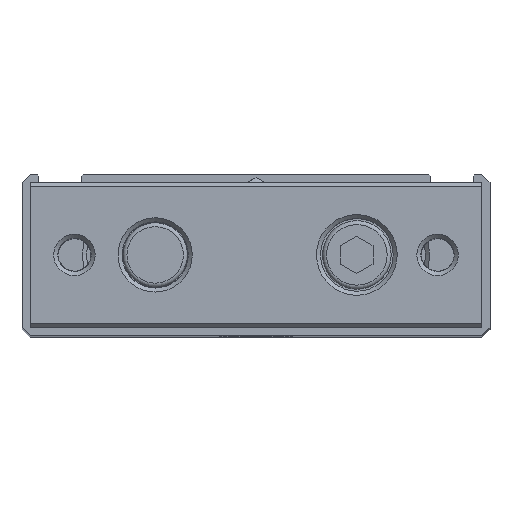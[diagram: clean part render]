
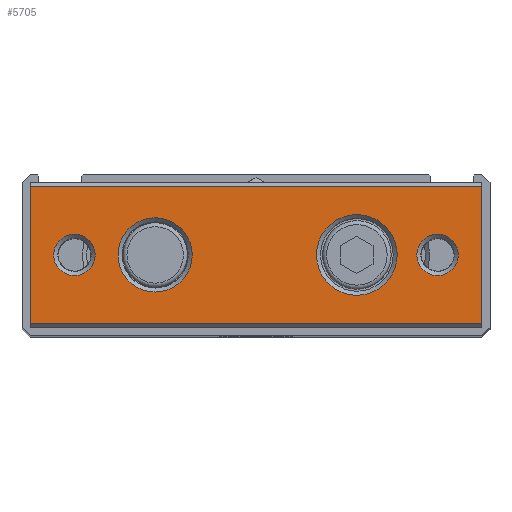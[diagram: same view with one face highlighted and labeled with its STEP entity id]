
A CAD part, top view. The second image highlights one B-rep face of the part: STEP entity #5705.
In plain terms, the highlighted planar face has unit normal (0, 0, 1).
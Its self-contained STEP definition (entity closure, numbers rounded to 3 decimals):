
#3656=CARTESIAN_POINT('',(-28.,-8.5,134.0));
#3657=VERTEX_POINT('',#3656);
#3664=CARTESIAN_POINT('',(-28.,8.5,134.0));
#3665=VERTEX_POINT('',#3664);
#3666=CARTESIAN_POINT('',(-28.,8.5,134.0));
#3667=DIRECTION('',(0.0,-1.0,0.0));
#3668=VECTOR('',#3667,17.0);
#3669=LINE('',#3666,#3668);
#3670=EDGE_CURVE('',#3665,#3657,#3669,.T.);
#3856=CARTESIAN_POINT('',(28.,-8.5,134.0));
#3857=VERTEX_POINT('',#3856);
#3864=CARTESIAN_POINT('',(28.,-8.5,134.0));
#3865=DIRECTION('',(-1.0,0.0,0.0));
#3866=VECTOR('',#3865,56.);
#3867=LINE('',#3864,#3866);
#3868=EDGE_CURVE('',#3857,#3657,#3867,.T.);
#3935=CARTESIAN_POINT('',(28.,8.5,134.0));
#3936=VERTEX_POINT('',#3935);
#3943=CARTESIAN_POINT('',(28.,-8.5,134.0));
#3944=DIRECTION('',(0.0,1.0,0.0));
#3945=VECTOR('',#3944,17.0);
#3946=LINE('',#3943,#3945);
#3947=EDGE_CURVE('',#3857,#3936,#3946,.T.);
#5641=CARTESIAN_POINT('',(17.5,0.,134.0));
#5642=VERTEX_POINT('',#5641);
#5643=CARTESIAN_POINT('',(12.5,0.,134.0));
#5644=DIRECTION('',(0.0,0.0,1.0));
#5645=DIRECTION('',(-1.0,0.0,0.0));
#5646=AXIS2_PLACEMENT_3D('',#5643,#5644,#5645);
#5647=CIRCLE('',#5646,5.0);
#5648=EDGE_CURVE('',#5642,#5642,#5647,.T.);
#5653=CARTESIAN_POINT('',(0.0,-9.,134.0));
#5654=DIRECTION('',(0.0,0.0,1.0));
#5655=DIRECTION('',(1.0,0.0,0.0));
#5656=AXIS2_PLACEMENT_3D('',#5653,#5654,#5655);
#5657=PLANE('',#5656);
#5658=ORIENTED_EDGE('',*,*,#3868,.F.);
#5659=ORIENTED_EDGE('',*,*,#3947,.T.);
#5660=CARTESIAN_POINT('',(-28.,8.5,134.0));
#5661=DIRECTION('',(1.0,0.0,0.0));
#5662=VECTOR('',#5661,56.);
#5663=LINE('',#5660,#5662);
#5664=EDGE_CURVE('',#3665,#3936,#5663,.T.);
#5665=ORIENTED_EDGE('',*,*,#5664,.F.);
#5666=ORIENTED_EDGE('',*,*,#3670,.T.);
#5667=EDGE_LOOP('',(#5658,#5659,#5665,#5666));
#5668=FACE_OUTER_BOUND('',#5667,.T.);
#5669=CARTESIAN_POINT('',(-7.9,0.,134.0));
#5670=VERTEX_POINT('',#5669);
#5671=CARTESIAN_POINT('',(-12.5,0.,134.0));
#5672=DIRECTION('',(0.0,0.0,1.0));
#5673=DIRECTION('',(-1.0,0.0,0.0));
#5674=AXIS2_PLACEMENT_3D('',#5671,#5672,#5673);
#5675=CIRCLE('',#5674,4.6);
#5676=EDGE_CURVE('',#5670,#5670,#5675,.T.);
#5677=ORIENTED_EDGE('',*,*,#5676,.F.);
#5678=EDGE_LOOP('',(#5677));
#5679=FACE_BOUND('',#5678,.T.);
#5680=CARTESIAN_POINT('',(-19.933,0.,134.0));
#5681=VERTEX_POINT('',#5680);
#5682=CARTESIAN_POINT('',(-22.5,0.,134.0));
#5683=DIRECTION('',(0.0,0.0,1.0));
#5684=DIRECTION('',(-1.0,0.0,0.0));
#5685=AXIS2_PLACEMENT_3D('',#5682,#5683,#5684);
#5686=CIRCLE('',#5685,2.567);
#5687=EDGE_CURVE('',#5681,#5681,#5686,.T.);
#5688=ORIENTED_EDGE('',*,*,#5687,.F.);
#5689=EDGE_LOOP('',(#5688));
#5690=FACE_BOUND('',#5689,.T.);
#5691=CARTESIAN_POINT('',(25.067,0.,134.0));
#5692=VERTEX_POINT('',#5691);
#5693=CARTESIAN_POINT('',(22.5,0.,134.0));
#5694=DIRECTION('',(0.0,0.0,1.0));
#5695=DIRECTION('',(-1.0,0.0,0.0));
#5696=AXIS2_PLACEMENT_3D('',#5693,#5694,#5695);
#5697=CIRCLE('',#5696,2.567);
#5698=EDGE_CURVE('',#5692,#5692,#5697,.T.);
#5699=ORIENTED_EDGE('',*,*,#5698,.F.);
#5700=EDGE_LOOP('',(#5699));
#5701=FACE_BOUND('',#5700,.T.);
#5702=ORIENTED_EDGE('',*,*,#5648,.F.);
#5703=EDGE_LOOP('',(#5702));
#5704=FACE_BOUND('',#5703,.T.);
#5705=ADVANCED_FACE('',(#5668,#5679,#5690,#5701,#5704),#5657,.T.);
